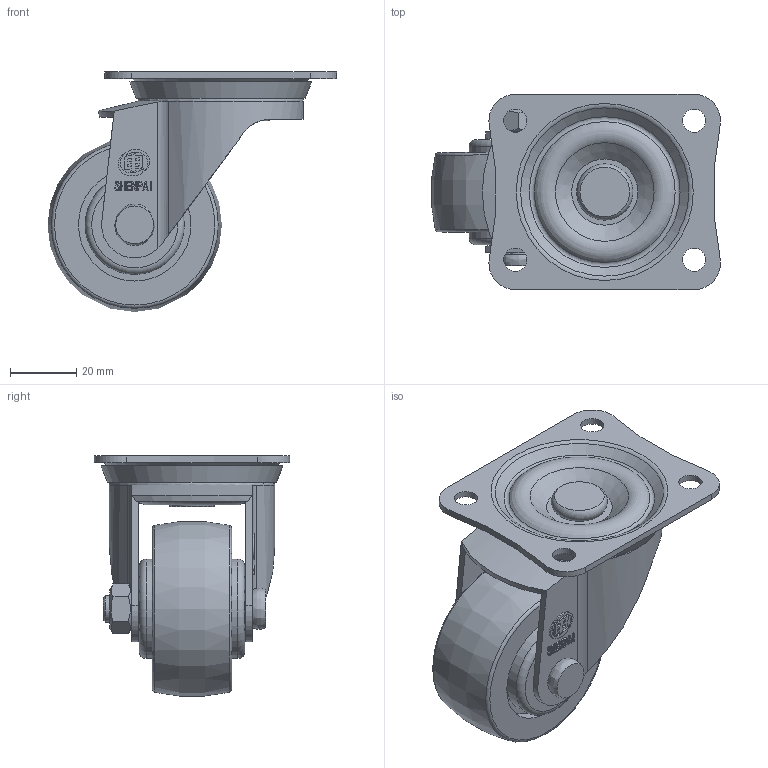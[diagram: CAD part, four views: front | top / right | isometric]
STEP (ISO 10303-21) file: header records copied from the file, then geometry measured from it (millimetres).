
FILE_DESCRIPTION(/* description */ (''),/* implementation_level */ '2;1');
FILE_NAME(/* name */ '15A01_2_F.stp',/* time_stamp */ '2022-10-06T13:58:49+08:00',/* author */ (''),/* organization */ (''),/* preprocessor_version */ 'ST-DEVELOPER v14',/* originating_system */ 'SIEMENS PLM Software NX 8.0',/* authorisation */ '');
FILE_SCHEMA (('AUTOMOTIVE_DESIGN { 1 0 10303 214 3 1 1 1 }'));
Length unit declared in the file: millimetre
Products named in the file (1): 15A01_2_F
Bounding box: 87.35 x 59 x 72.56 mm (x, y, z)
Volume: 76971.7 mm3; surface area: 43198.9 mm2
Topology: 1 solids, 1 shells, 450 faces, 1356 edges, 889 vertices
Faces by surface type: plane 227, torus 85, cylinder 71, sphere 42, cone 23, bspline 2
Full cylindrical faces by diameter (mm): 7 x4, 8 x3, 8.2 x1, 8.3 x2, 10 x1, 10.5 x1, 12 x2, 16 x1, 23 x1, 28 x2, 29 x2, 30 x2, 34 x2, 41 x1, 43 x1, 50 x1
Entity records: 19210 total; most frequent: CARTESIAN_POINT 8725, ORIENTED_EDGE 2314, DIRECTION 1856, EDGE_CURVE 1157, VERTEX_POINT 799, AXIS2_PLACEMENT_3D 776, EDGE_LOOP 598, B_SPLINE_CURVE_WITH_KNOTS 526
